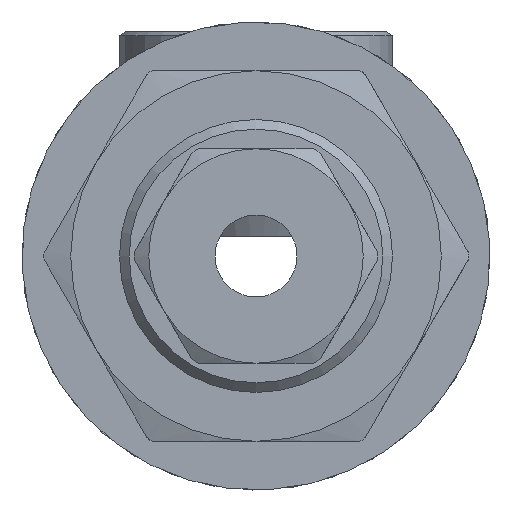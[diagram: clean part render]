
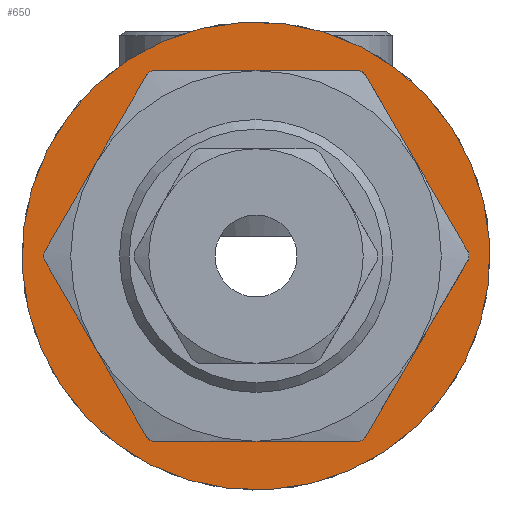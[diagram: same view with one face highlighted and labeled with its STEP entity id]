
A CAD part, front view. The second image highlights one B-rep face of the part: STEP entity #650.
In plain terms, the highlighted planar face has unit normal (0, -1, 0) as drawn and (1, 0, 0) by its records, which use the part's own axes.
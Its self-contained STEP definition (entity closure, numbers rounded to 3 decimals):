
#650=ADVANCED_FACE('',(#1045,#1046),#1047,.F.);
#1045=FACE_BOUND('',#1574,.T.);
#1046=FACE_OUTER_BOUND('',#1575,.T.);
#1047=PLANE('',#1576);
#1574=EDGE_LOOP('',(#3219));
#1575=EDGE_LOOP('',(#3220));
#1576=AXIS2_PLACEMENT_3D('',#3221,#3222,#3223);
#3219=ORIENTED_EDGE('',*,*,#4341,.T.);
#3220=ORIENTED_EDGE('',*,*,#4342,.F.);
#3221=CARTESIAN_POINT('',(0.0,0.0,0.));
#3222=DIRECTION('',(-1.0,0.,0.0));
#3223=DIRECTION('',(0.,-1.0,0.0));
#4341=EDGE_CURVE('',#4766,#4766,#4767,.T.);
#4342=EDGE_CURVE('',#4768,#4768,#4769,.T.);
#4766=VERTEX_POINT('',#5375);
#4767=CIRCLE('',#5376,7.5);
#4768=VERTEX_POINT('',#5377);
#4769=CIRCLE('',#5378,12.0);
#5375=CARTESIAN_POINT('',(0.,-7.5,0.));
#5376=AXIS2_PLACEMENT_3D('',#6686,#6687,#6688);
#5377=CARTESIAN_POINT('',(0.,12.0,0.));
#5378=AXIS2_PLACEMENT_3D('',#6689,#6690,#6691);
#6686=CARTESIAN_POINT('',(0.0,0.,0.));
#6687=DIRECTION('',(-1.0,0.,0.0));
#6688=DIRECTION('',(0.,-1.0,0.0));
#6689=CARTESIAN_POINT('',(0.0,0.0,0.));
#6690=DIRECTION('',(-1.0,0.,0.0));
#6691=DIRECTION('',(0.,1.0,0.0));
